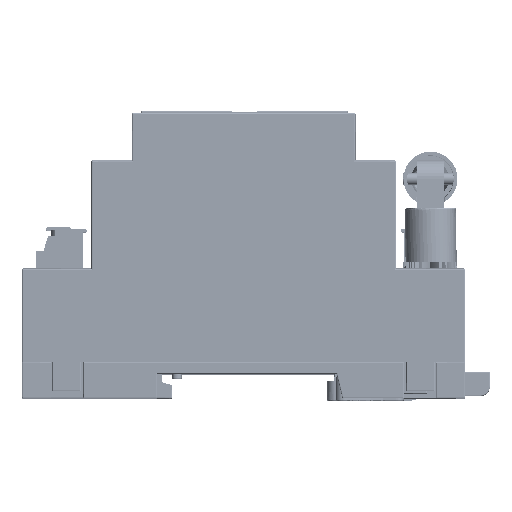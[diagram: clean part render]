
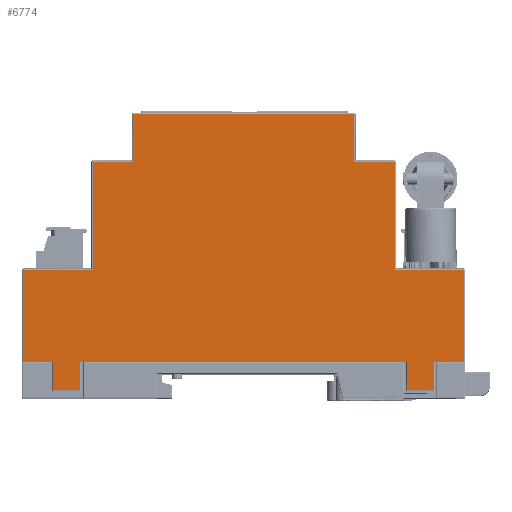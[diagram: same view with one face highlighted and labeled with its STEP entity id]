
A CAD part, top view. The second image highlights one B-rep face of the part: STEP entity #6774.
In plain terms, the highlighted planar face has unit normal (0, 0, 1).
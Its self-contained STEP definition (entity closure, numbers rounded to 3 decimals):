
#6774=ADVANCED_FACE('',(#104924),#104926,.T.);
#104924=FACE_BOUND('',#104925,.T.);
#104925=EDGE_LOOP('',(#204868,#204869,#204870,#204871,#204872,#204873,#204874,#204875,
#204876,#204877,#204878,#204879,#204880,#204881,#204882,#204883,#204884,#204885,
#204886,#204887));
#104926=PLANE('',#104927);
#104927=AXIS2_PLACEMENT_3D('',#104928,#104929,#104930);
#104928=CARTESIAN_POINT('',(0.,-3.74,106.));
#104929=DIRECTION('',(0.,0.,1.));
#104930=DIRECTION('',(1.,0.,0.));
#204868=ORIENTED_EDGE('',*,*,#294869,.F.);
#204869=ORIENTED_EDGE('',*,*,#294870,.F.);
#204870=ORIENTED_EDGE('',*,*,#294871,.F.);
#204871=ORIENTED_EDGE('',*,*,#294872,.F.);
#204872=ORIENTED_EDGE('',*,*,#294589,.T.);
#204873=ORIENTED_EDGE('',*,*,#294873,.F.);
#204874=ORIENTED_EDGE('',*,*,#294874,.F.);
#204875=ORIENTED_EDGE('',*,*,#294875,.F.);
#204876=ORIENTED_EDGE('',*,*,#294876,.F.);
#204877=ORIENTED_EDGE('',*,*,#294877,.F.);
#204878=ORIENTED_EDGE('',*,*,#294878,.F.);
#204879=ORIENTED_EDGE('',*,*,#294879,.F.);
#204880=ORIENTED_EDGE('',*,*,#294880,.F.);
#204881=ORIENTED_EDGE('',*,*,#294881,.F.);
#204882=ORIENTED_EDGE('',*,*,#294882,.F.);
#204883=ORIENTED_EDGE('',*,*,#294883,.F.);
#204884=ORIENTED_EDGE('',*,*,#294553,.F.);
#204885=ORIENTED_EDGE('',*,*,#294867,.F.);
#204886=ORIENTED_EDGE('',*,*,#294884,.F.);
#204887=ORIENTED_EDGE('',*,*,#294885,.F.);
#294553=EDGE_CURVE('',#330387,#330389,#330390,.T.);
#294589=EDGE_CURVE('',#330448,#330446,#330449,.T.);
#294867=EDGE_CURVE('',#330949,#330387,#330950,.T.);
#294869=EDGE_CURVE('',#330952,#330953,#330954,.T.);
#294870=EDGE_CURVE('',#330955,#330952,#330956,.T.);
#294871=EDGE_CURVE('',#330957,#330955,#330958,.T.);
#294872=EDGE_CURVE('',#330448,#330957,#330959,.T.);
#294873=EDGE_CURVE('',#330960,#330446,#330961,.T.);
#294874=EDGE_CURVE('',#330962,#330960,#330963,.T.);
#294875=EDGE_CURVE('',#330964,#330962,#330965,.T.);
#294876=EDGE_CURVE('',#330966,#330964,#330967,.T.);
#294877=EDGE_CURVE('',#330968,#330966,#330969,.T.);
#294878=EDGE_CURVE('',#330970,#330968,#330971,.T.);
#294879=EDGE_CURVE('',#330972,#330970,#330973,.T.);
#294880=EDGE_CURVE('',#330974,#330972,#330975,.T.);
#294881=EDGE_CURVE('',#330976,#330974,#330977,.T.);
#294882=EDGE_CURVE('',#330978,#330976,#330979,.T.);
#294883=EDGE_CURVE('',#330389,#330978,#330980,.T.);
#294884=EDGE_CURVE('',#330981,#330949,#330982,.T.);
#294885=EDGE_CURVE('',#330953,#330981,#330983,.T.);
#330387=VERTEX_POINT('',#389916);
#330389=VERTEX_POINT('',#389921);
#330390=LINE('',#389922,#389923);
#330446=VERTEX_POINT('',#390068);
#330448=VERTEX_POINT('',#390073);
#330449=LINE('',#390074,#390075);
#330949=VERTEX_POINT('',#391157);
#330950=LINE('',#391158,#391159);
#330952=VERTEX_POINT('',#391165);
#330953=VERTEX_POINT('',#391166);
#330954=LINE('',#391167,#391168);
#330955=VERTEX_POINT('',#391170);
#330956=LINE('',#391171,#391172);
#330957=VERTEX_POINT('',#391174);
#330958=LINE('',#391175,#391176);
#330959=LINE('',#391178,#391179);
#330960=VERTEX_POINT('',#391181);
#330961=LINE('',#391182,#391183);
#330962=VERTEX_POINT('',#391185);
#330963=LINE('',#391186,#391187);
#330964=VERTEX_POINT('',#391189);
#330965=LINE('',#391190,#391191);
#330966=VERTEX_POINT('',#391193);
#330967=LINE('',#391194,#391195);
#330968=VERTEX_POINT('',#391197);
#330969=LINE('',#391198,#391199);
#330970=VERTEX_POINT('',#391201);
#330971=LINE('',#391202,#391203);
#330972=VERTEX_POINT('',#391205);
#330973=LINE('',#391206,#391207);
#330974=VERTEX_POINT('',#391209);
#330975=LINE('',#391210,#391211);
#330976=VERTEX_POINT('',#391213);
#330977=LINE('',#391214,#391215);
#330978=VERTEX_POINT('',#391217);
#330979=LINE('',#391218,#391219);
#330980=LINE('',#391221,#391222);
#330981=VERTEX_POINT('',#391224);
#330982=LINE('',#391225,#391226);
#330983=LINE('',#391228,#391229);
#389916=CARTESIAN_POINT('',(-38.7,-25.35,106.));
#389921=CARTESIAN_POINT('',(-44.8,-25.35,106.));
#389922=CARTESIAN_POINT('',(-38.7,-25.35,106.));
#389923=VECTOR('',#389924,1.);
#389924=DIRECTION('',(-1.,0.,0.));
#390068=CARTESIAN_POINT('',(44.8,-25.35,106.));
#390073=CARTESIAN_POINT('',(38.7,-25.35,106.));
#390074=CARTESIAN_POINT('',(38.7,-25.35,106.));
#390075=VECTOR('',#390076,1.);
#390076=DIRECTION('',(1.,0.,0.));
#391157=CARTESIAN_POINT('',(-38.7,-31.15,106.));
#391158=CARTESIAN_POINT('',(-38.7,-31.15,106.));
#391159=VECTOR('',#391160,1.);
#391160=DIRECTION('',(0.,1.,0.));
#391165=CARTESIAN_POINT('',(33.3,-25.35,106.));
#391166=CARTESIAN_POINT('',(-33.3,-25.35,106.));
#391167=CARTESIAN_POINT('',(33.3,-25.35,106.));
#391168=VECTOR('',#391169,1.);
#391169=DIRECTION('',(-1.,0.,0.));
#391170=CARTESIAN_POINT('',(33.3,-31.15,106.));
#391171=CARTESIAN_POINT('',(33.3,-31.15,106.));
#391172=VECTOR('',#391173,1.);
#391173=DIRECTION('',(0.,1.,0.));
#391174=CARTESIAN_POINT('',(38.7,-31.15,106.));
#391175=CARTESIAN_POINT('',(38.7,-31.15,106.));
#391176=VECTOR('',#391177,1.);
#391177=DIRECTION('',(-1.,0.,0.));
#391178=CARTESIAN_POINT('',(38.7,-25.35,106.));
#391179=VECTOR('',#391180,1.);
#391180=DIRECTION('',(0.,-1.,0.));
#391181=CARTESIAN_POINT('',(44.8,-6.65,106.));
#391182=CARTESIAN_POINT('',(44.8,-6.65,106.));
#391183=VECTOR('',#391184,1.);
#391184=DIRECTION('',(0.,-1.,0.));
#391185=CARTESIAN_POINT('',(30.7,-6.65,106.));
#391186=CARTESIAN_POINT('',(30.7,-6.65,106.));
#391187=VECTOR('',#391188,1.);
#391188=DIRECTION('',(1.,0.,0.));
#391189=CARTESIAN_POINT('',(30.7,15.35,106.));
#391190=CARTESIAN_POINT('',(30.7,15.35,106.));
#391191=VECTOR('',#391192,1.);
#391192=DIRECTION('',(0.,-1.,0.));
#391193=CARTESIAN_POINT('',(22.45,15.35,106.));
#391194=CARTESIAN_POINT('',(22.45,15.35,106.));
#391195=VECTOR('',#391196,1.);
#391196=DIRECTION('',(1.,0.,0.));
#391197=CARTESIAN_POINT('',(22.45,25.05,106.));
#391198=CARTESIAN_POINT('',(22.45,25.05,106.));
#391199=VECTOR('',#391200,1.);
#391200=DIRECTION('',(0.,-1.,0.));
#391201=CARTESIAN_POINT('',(-22.45,25.05,106.));
#391202=CARTESIAN_POINT('',(-22.45,25.05,106.));
#391203=VECTOR('',#391204,1.);
#391204=DIRECTION('',(1.,0.,0.));
#391205=CARTESIAN_POINT('',(-22.45,15.35,106.));
#391206=CARTESIAN_POINT('',(-22.45,15.35,106.));
#391207=VECTOR('',#391208,1.);
#391208=DIRECTION('',(0.,1.,0.));
#391209=CARTESIAN_POINT('',(-30.7,15.35,106.));
#391210=CARTESIAN_POINT('',(-30.7,15.35,106.));
#391211=VECTOR('',#391212,1.);
#391212=DIRECTION('',(1.,0.,0.));
#391213=CARTESIAN_POINT('',(-30.7,-6.65,106.));
#391214=CARTESIAN_POINT('',(-30.7,-6.65,106.));
#391215=VECTOR('',#391216,1.);
#391216=DIRECTION('',(0.,1.,0.));
#391217=CARTESIAN_POINT('',(-44.8,-6.65,106.));
#391218=CARTESIAN_POINT('',(-44.8,-6.65,106.));
#391219=VECTOR('',#391220,1.);
#391220=DIRECTION('',(1.,0.,0.));
#391221=CARTESIAN_POINT('',(-44.8,-25.35,106.));
#391222=VECTOR('',#391223,1.);
#391223=DIRECTION('',(0.,1.,0.));
#391224=CARTESIAN_POINT('',(-33.3,-31.15,106.));
#391225=CARTESIAN_POINT('',(-33.3,-31.15,106.));
#391226=VECTOR('',#391227,1.);
#391227=DIRECTION('',(-1.,0.,0.));
#391228=CARTESIAN_POINT('',(-33.3,-25.35,106.));
#391229=VECTOR('',#391230,1.);
#391230=DIRECTION('',(0.,-1.,0.));
